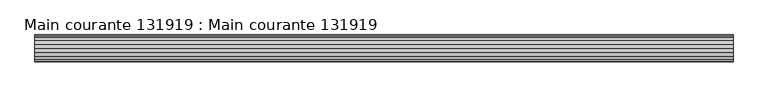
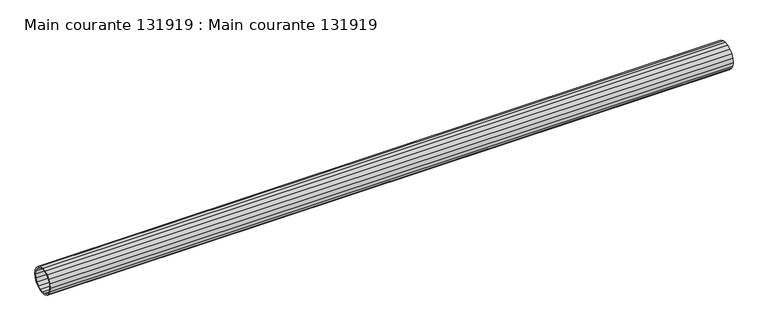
"""IFC4 building model written with IfcOpenShell, lengths in millimetres: beam geometry, Main courante 131919 : Main courante 131919."""

from ifc_helpers import new_model, si_unit, frame, origin, place, context, project, spatial, polyline, outline, extrude, source, transform, mapped, element, save


def main_courante_131919_main_courante_131919_cccd8bc6(model_context):
    return source(origin(), model_context, "Body", "SweptSolid", [
        extrude(outline(polyline([(-14149.8127604, 8787.9680149), (-14142.35, 8789.15), (-14134.8872396, 8787.9680149), (-14128.1549862, 8784.5377604), (-14122.8122396, 8779.1950138), (-14119.3819851, 8772.4627604), (-14118.2, 8765.0), (-14119.3819851, 8757.5372396), (-14122.8122396, 8750.8049862), (-14128.1549862, 8745.4622396), (-14134.8872396, 8742.0319851), (-14142.35, 8740.85), (-14149.8127604, 8742.0319851), (-14156.5450138, 8745.4622396), (-14161.8877604, 8750.8049862), (-14165.3180149, 8757.5372396), (-14166.5, 8765.0), (-14165.3180149, 8772.4627604), (-14161.8877604, 8779.1950138), (-14156.5450138, 8784.5377604), (-14149.8127604, 8787.9680149)]), holes=[polyline([(-14121.7596264, 8771.6902179), (-14124.8347821, 8777.7255507), (-14129.6244493, 8782.5152179), (-14135.6597821, 8785.5903736), (-14142.35, 8786.65), (-14149.0402179, 8785.5903736), (-14155.0755507, 8782.5152179), (-14159.8652179, 8777.7255507), (-14162.9403736, 8771.6902179), (-14164.0, 8765.0), (-14162.9403736, 8758.3097821), (-14159.8652179, 8752.2744493), (-14155.0755507, 8747.4847821), (-14149.0402179, 8744.4096264), (-14142.35, 8743.35), (-14135.6597821, 8744.4096264), (-14129.6244493, 8747.4847821), (-14124.8347821, 8752.2744493), (-14121.7596264, 8758.3097821), (-14120.7, 8765.0), (-14121.7596264, 8771.6902179)])]), frame((3754.4999999, 0.0, 0.0), z_axis=(1.0, 0.0, 0.0), x_axis=(0.0, 1.0, 0.0)), (0.0, 0.0, 1.0), 1249.5),
    ])


if __name__ == "__main__":
    model = new_model("IFC4")
    model_context = context("Model", 3, world=origin())
    ifc_project = project(units=[si_unit("LENGTHUNIT", "METRE", prefix="MILLI")], contexts=[model_context])
    site = spatial("IfcSite", under=ifc_project)
    building = spatial("IfcBuilding", under=site)
    placement = place(None, origin())
    main_courante_131919_main_courante_131919_shape = main_courante_131919_main_courante_131919_cccd8bc6(model_context)
    element("IfcBeam", 1, ObjectType="Main courante 131919 : Main courante 131919", at=placement, inside=building, context=model_context, shape_type="MappedRepresentation", body=[
        mapped(main_courante_131919_main_courante_131919_shape, transform((0.0, 0.0, 0.0), x_axis=(1.0, 0.0, 0.0), y_axis=(0.0, 1.0, 0.0), z_axis=(0.0, 0.0, 1.0))),
    ])
    save(model, "model.ifc")
